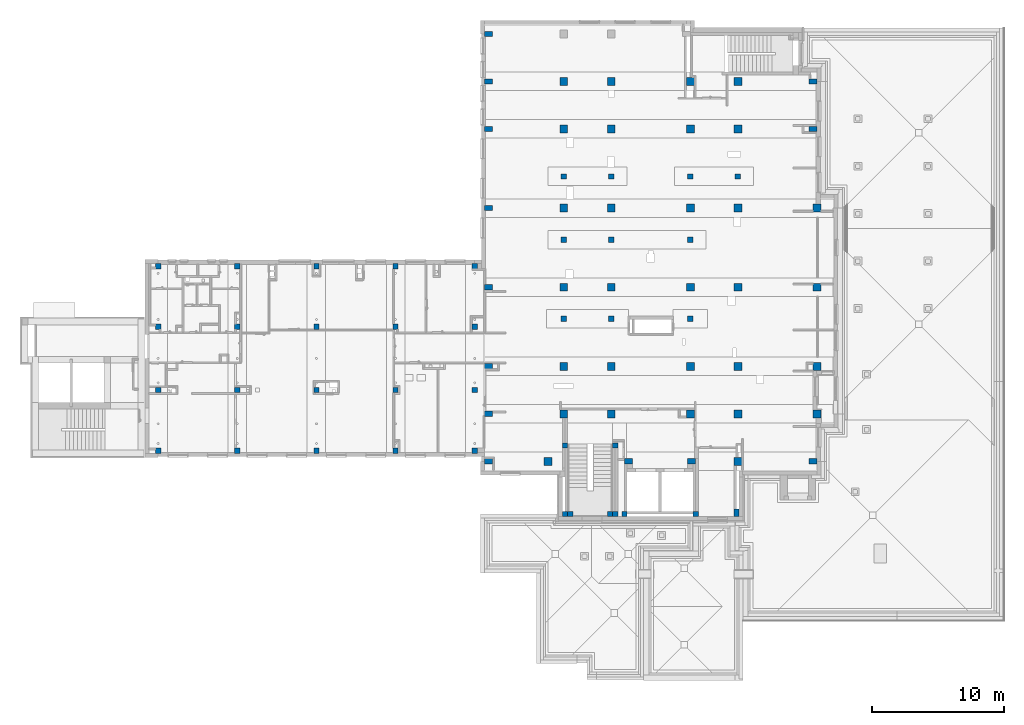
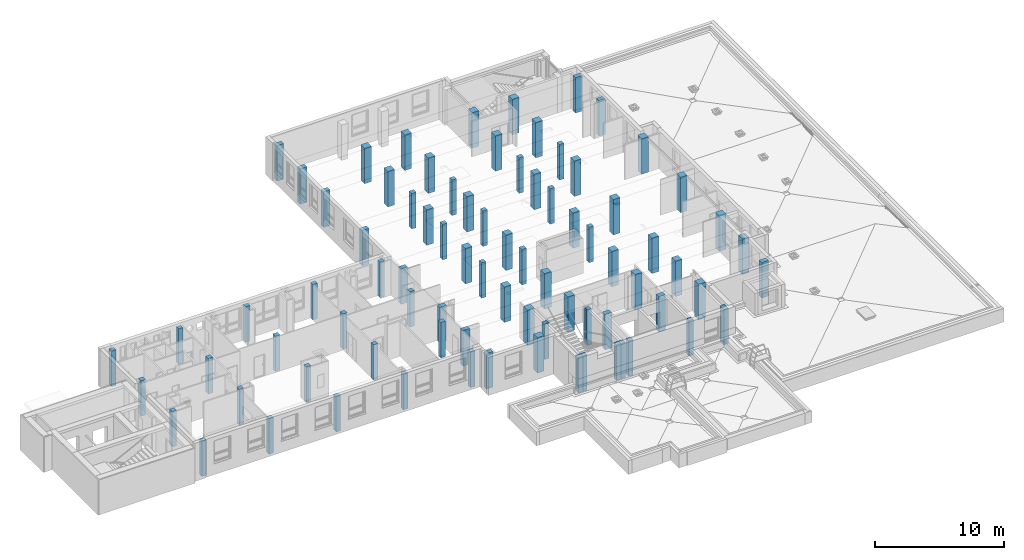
# One storey, part 1 of 50: 82 columns.
"""IFC4 building model written with IfcOpenShell, lengths in metres."""

from ifc_helpers import new_model, entity, si_unit, converted_unit, derived_unit, frame, frame_2d, origin, origin_with_axes, place, context, subcontext, project, spatial, rectangle, extrude, material, element, save


model = new_model("IFC4")

# Units and contexts
model_context = context("Model", 3, precision=1e-05, world=origin())
body_context = subcontext(model_context, "Body", "Model", "MODEL_VIEW")
ifc_project = project(units=[si_unit("LENGTHUNIT", "METRE"), si_unit("AREAUNIT", "SQUARE_METRE"), si_unit("VOLUMEUNIT", "CUBIC_METRE"), si_unit("MASSUNIT", "GRAM", prefix="KILO"), converted_unit("PLANEANGLEUNIT", "DEGREE", entity("IfcPlaneAngleMeasure", 0.0174532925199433), si_unit("PLANEANGLEUNIT", "RADIAN"), dimensions=[0, 0, 0, 0, 0, 0, 0]), derived_unit("THERMALTRANSMITTANCEUNIT", [(si_unit("POWERUNIT", "WATT"), 1), (si_unit("THERMODYNAMICTEMPERATUREUNIT", "KELVIN"), -1), (si_unit("LENGTHUNIT", "METRE"), -2)]), derived_unit("VOLUMETRICFLOWRATEUNIT", [(si_unit("LENGTHUNIT", "METRE"), 3), (converted_unit("TIMEUNIT", "hour", entity("IfcTimeMeasure", 3600.0), si_unit("TIMEUNIT", "SECOND"), dimensions=[0, 0, 1, 0, 0, 0, 0]), -1), (si_unit("LENGTHUNIT", "METRE"), -1)])], contexts=[model_context])

# Site, building, storey
site_placement = place(None, origin())
site = spatial("IfcSite", under=ifc_project, at=site_placement, Name="3. ASŘ", CompositionType="ELEMENT")
building_placement = place(site_placement, origin())
building = spatial("IfcBuilding", under=site, at=building_placement, Name="Pavilon C", CompositionType="ELEMENT")
storey_placement = place(building_placement, frame((0.0, 0.0, 3.6)))
storey = spatial("IfcBuildingStorey", under=building, at=storey_placement, Name="Půdorys 2.NP", CompositionType="ELEMENT", Elevation=3.6)

# Columns
ifc_material_1 = material(Name="ZELEZOBETONOVÁ KCE")
column_1_placement = place(storey_placement, frame((24.2, 5.6, -0.1)))
element("IfcColumn", 1, at=column_1_placement, inside=storey, material=ifc_material_1, PredefinedType="COLUMN", context=body_context, shape_type="SweptSolid", body=[
    extrude(rectangle(XDim=0.400000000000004, YDim=0.4, at=frame_2d((-0.200000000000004, -0.2), x_axis=(-1.0, 0.0))), origin_with_axes(), (0.0, 0.0, 1.0), 3.35),
])
ifc_material_2 = material(Name="ZELEZOBETONOVÁ KCE")
column_2_placement = place(storey_placement, frame((29.85, 0.299999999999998, -0.1)))
element("IfcColumn", 2, at=column_2_placement, inside=storey, material=ifc_material_2, PredefinedType="COLUMN", context=body_context, shape_type="SweptSolid", body=[
    extrude(rectangle(XDim=0.6, YDim=0.6, at=frame_2d((-0.3, -0.3), x_axis=(-1.0, 0.0))), origin_with_axes(), (0.0, 0.0, 1.0), 3.35),
])
ifc_material_3 = material(Name="ZELEZOBETONOVÁ KCE")
column_3_placement = place(storey_placement, frame((31.05, 29.1, -0.1)))
element("IfcColumn", 3, at=column_3_placement, inside=storey, material=ifc_material_3, PredefinedType="COLUMN", context=body_context, shape_type="SweptSolid", body=[
    extrude(rectangle(XDim=0.6, YDim=0.6, at=frame_2d((-0.3, -0.3), x_axis=(-1.0, 0.0))), origin_with_axes(), (0.0, 0.0, 1.0), 3.35),
])
ifc_material_4 = material(Name="ZELEZOBETONOVÁ KCE")
column_4_placement = place(storey_placement, frame((34.65, 29.1, -0.1)))
element("IfcColumn", 4, at=column_4_placement, inside=storey, material=ifc_material_4, PredefinedType="COLUMN", context=body_context, shape_type="SweptSolid", body=[
    extrude(rectangle(XDim=0.6, YDim=0.6, at=frame_2d((-0.3, -0.3), x_axis=(-1.0, 0.0))), origin_with_axes(), (0.0, 0.0, 1.0), 3.35),
])
ifc_material_5 = material(Name="ZELEZOBETONOVÁ KCE")
column_5_placement = place(storey_placement, frame((31.05, 25.5, -0.1)))
element("IfcColumn", 5, at=column_5_placement, inside=storey, material=ifc_material_5, PredefinedType="COLUMN", context=body_context, shape_type="SweptSolid", body=[
    extrude(rectangle(XDim=0.6, YDim=0.6, at=frame_2d((-0.3, -0.3), x_axis=(-1.0, 0.0))), origin_with_axes(), (0.0, 0.0, 1.0), 3.35),
])
ifc_material_6 = material(Name="ZELEZOBETONOVÁ KCE")
column_6_placement = place(storey_placement, frame((34.65, 25.5, -0.1)))
element("IfcColumn", 6, at=column_6_placement, inside=storey, material=ifc_material_6, PredefinedType="COLUMN", context=body_context, shape_type="SweptSolid", body=[
    extrude(rectangle(XDim=0.6, YDim=0.6, at=frame_2d((-0.3, -0.3), x_axis=(-1.0, 0.0))), origin_with_axes(), (0.0, 0.0, 1.0), 3.35),
])
ifc_material_7 = material(Name="ZELEZOBETONOVÁ KCE")
column_7_placement = place(storey_placement, frame((31.05, 19.5, -0.1)))
element("IfcColumn", 7, at=column_7_placement, inside=storey, material=ifc_material_7, PredefinedType="COLUMN", context=body_context, shape_type="SweptSolid", body=[
    extrude(rectangle(XDim=0.6, YDim=0.6, at=frame_2d((-0.3, -0.3), x_axis=(-1.0, 0.0))), origin_with_axes(), (0.0, 0.0, 1.0), 3.35),
])
ifc_material_8 = material(Name="ZELEZOBETONOVÁ KCE")
column_8_placement = place(storey_placement, frame((34.65, 19.5, -0.1)))
element("IfcColumn", 8, at=column_8_placement, inside=storey, material=ifc_material_8, PredefinedType="COLUMN", context=body_context, shape_type="SweptSolid", body=[
    extrude(rectangle(XDim=0.6, YDim=0.6, at=frame_2d((-0.3, -0.3), x_axis=(-1.0, 0.0))), origin_with_axes(), (0.0, 0.0, 1.0), 3.35),
])
ifc_material_9 = material(Name="ZELEZOBETONOVÁ KCE")
column_9_placement = place(storey_placement, frame((31.05, 13.5, -0.1)))
element("IfcColumn", 9, at=column_9_placement, inside=storey, material=ifc_material_9, PredefinedType="COLUMN", context=body_context, shape_type="SweptSolid", body=[
    extrude(rectangle(XDim=0.6, YDim=0.6, at=frame_2d((-0.3, -0.3), x_axis=(-1.0, 0.0))), origin_with_axes(), (0.0, 0.0, 1.0), 3.35),
])
ifc_material_10 = material(Name="ZELEZOBETONOVÁ KCE")
column_10_placement = place(storey_placement, frame((34.65, 13.5, -0.1)))
element("IfcColumn", 10, at=column_10_placement, inside=storey, material=ifc_material_10, PredefinedType="COLUMN", context=body_context, shape_type="SweptSolid", body=[
    extrude(rectangle(XDim=0.6, YDim=0.6, at=frame_2d((-0.3, -0.3), x_axis=(-1.0, 0.0))), origin_with_axes(), (0.0, 0.0, 1.0), 3.35),
])
ifc_material_11 = material(Name="ZELEZOBETONOVÁ KCE")
column_11_placement = place(storey_placement, frame((31.05, 7.5, -0.1)))
element("IfcColumn", 11, at=column_11_placement, inside=storey, material=ifc_material_11, PredefinedType="COLUMN", context=body_context, shape_type="SweptSolid", body=[
    extrude(rectangle(XDim=0.6, YDim=0.6, at=frame_2d((-0.3, -0.3), x_axis=(-1.0, 0.0))), origin_with_axes(), (0.0, 0.0, 1.0), 3.35),
])
ifc_material_12 = material(Name="ZELEZOBETONOVÁ KCE")
column_12_placement = place(storey_placement, frame((34.65, 7.5, -0.1)))
element("IfcColumn", 12, at=column_12_placement, inside=storey, material=ifc_material_12, PredefinedType="COLUMN", context=body_context, shape_type="SweptSolid", body=[
    extrude(rectangle(XDim=0.6, YDim=0.6, at=frame_2d((-0.3, -0.3), x_axis=(-1.0, 0.0))), origin_with_axes(), (0.0, 0.0, 1.0), 3.35),
])
ifc_material_13 = material(Name="ZELEZOBETONOVÁ KCE")
column_13_placement = place(storey_placement, frame((44.25, 3.89999999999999, -0.1)))
element("IfcColumn", 13, at=column_13_placement, inside=storey, material=ifc_material_13, PredefinedType="COLUMN", context=body_context, shape_type="SweptSolid", body=[
    extrude(rectangle(XDim=0.6, YDim=0.6, at=frame_2d((-0.3, -0.3), x_axis=(-1.0, 0.0))), origin_with_axes(), (0.0, 0.0, 1.0), 3.35),
])
ifc_material_14 = material(Name="ZELEZOBETONOVÁ KCE")
column_14_placement = place(storey_placement, frame((40.65, 7.49999999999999, -0.1)))
element("IfcColumn", 14, at=column_14_placement, inside=storey, material=ifc_material_14, PredefinedType="COLUMN", context=body_context, shape_type="SweptSolid", body=[
    extrude(rectangle(XDim=0.6, YDim=0.6, at=frame_2d((-0.3, -0.3), x_axis=(-1.0, 0.0))), origin_with_axes(), (0.0, 0.0, 1.0), 3.35),
])
ifc_material_15 = material(Name="ZELEZOBETONOVÁ KCE")
column_15_placement = place(storey_placement, frame((44.25, 7.49999999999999, -0.1)))
element("IfcColumn", 15, at=column_15_placement, inside=storey, material=ifc_material_15, PredefinedType="COLUMN", context=body_context, shape_type="SweptSolid", body=[
    extrude(rectangle(XDim=0.6, YDim=0.6, at=frame_2d((-0.3, -0.3), x_axis=(-1.0, 0.0))), origin_with_axes(), (0.0, 0.0, 1.0), 3.35),
])
ifc_material_16 = material(Name="ZELEZOBETONOVÁ KCE")
column_16_placement = place(storey_placement, frame((40.65, 13.5, -0.1)))
element("IfcColumn", 16, at=column_16_placement, inside=storey, material=ifc_material_16, PredefinedType="COLUMN", context=body_context, shape_type="SweptSolid", body=[
    extrude(rectangle(XDim=0.6, YDim=0.6, at=frame_2d((-0.3, -0.3), x_axis=(-1.0, 0.0))), origin_with_axes(), (0.0, 0.0, 1.0), 3.35),
])
ifc_material_17 = material(Name="ZELEZOBETONOVÁ KCE")
column_17_placement = place(storey_placement, frame((44.25, 13.5, -0.1)))
element("IfcColumn", 17, at=column_17_placement, inside=storey, material=ifc_material_17, PredefinedType="COLUMN", context=body_context, shape_type="SweptSolid", body=[
    extrude(rectangle(XDim=0.6, YDim=0.6, at=frame_2d((-0.3, -0.3), x_axis=(-1.0, 0.0))), origin_with_axes(), (0.0, 0.0, 1.0), 3.35),
])
ifc_material_18 = material(Name="ZELEZOBETONOVÁ KCE")
column_18_placement = place(storey_placement, frame((40.65, 19.5, -0.1)))
element("IfcColumn", 18, at=column_18_placement, inside=storey, material=ifc_material_18, PredefinedType="COLUMN", context=body_context, shape_type="SweptSolid", body=[
    extrude(rectangle(XDim=0.6, YDim=0.6, at=frame_2d((-0.3, -0.3), x_axis=(-1.0, 0.0))), origin_with_axes(), (0.0, 0.0, 1.0), 3.35),
])
ifc_material_19 = material(Name="ZELEZOBETONOVÁ KCE")
column_19_placement = place(storey_placement, frame((44.25, 19.5, -0.1)))
element("IfcColumn", 19, at=column_19_placement, inside=storey, material=ifc_material_19, PredefinedType="COLUMN", context=body_context, shape_type="SweptSolid", body=[
    extrude(rectangle(XDim=0.6, YDim=0.6, at=frame_2d((-0.3, -0.3), x_axis=(-1.0, 0.0))), origin_with_axes(), (0.0, 0.0, 1.0), 3.35),
])
ifc_material_20 = material(Name="ZELEZOBETONOVÁ KCE")
column_20_placement = place(storey_placement, frame((40.65, 25.5, -0.1)))
element("IfcColumn", 20, at=column_20_placement, inside=storey, material=ifc_material_20, PredefinedType="COLUMN", context=body_context, shape_type="SweptSolid", body=[
    extrude(rectangle(XDim=0.6, YDim=0.6, at=frame_2d((-0.3, -0.3), x_axis=(-1.0, 0.0))), origin_with_axes(), (0.0, 0.0, 1.0), 3.35),
])
ifc_material_21 = material(Name="ZELEZOBETONOVÁ KCE")
column_21_placement = place(storey_placement, frame((44.25, 25.5, -0.1)))
element("IfcColumn", 21, at=column_21_placement, inside=storey, material=ifc_material_21, PredefinedType="COLUMN", context=body_context, shape_type="SweptSolid", body=[
    extrude(rectangle(XDim=0.6, YDim=0.6, at=frame_2d((-0.3, -0.3), x_axis=(-1.0, 0.0))), origin_with_axes(), (0.0, 0.0, 1.0), 3.35),
])
ifc_material_22 = material(Name="ZELEZOBETONOVÁ KCE")
column_22_placement = place(storey_placement, frame((44.25, 29.1, -0.1)))
element("IfcColumn", 22, at=column_22_placement, inside=storey, material=ifc_material_22, PredefinedType="COLUMN", context=body_context, shape_type="SweptSolid", body=[
    extrude(rectangle(XDim=0.6, YDim=0.6, at=frame_2d((-0.3, -0.3), x_axis=(-1.0, 0.0))), origin_with_axes(), (0.0, 0.0, 1.0), 3.35),
])
ifc_material_23 = material(Name="ZELEZOBETONOVÁ KCE")
column_23_placement = place(storey_placement, frame((30.95, 17.0, -0.1)))
element("IfcColumn", 23, at=column_23_placement, inside=storey, material=ifc_material_23, PredefinedType="COLUMN", context=body_context, shape_type="SweptSolid", body=[
    extrude(rectangle(XDim=0.4, YDim=0.4, at=frame_2d((-0.2, -0.2), x_axis=(-1.0, 0.0))), origin_with_axes(), (0.0, 0.0, 1.0), 3.35),
])
ifc_material_24 = material(Name="ZELEZOBETONOVÁ KCE")
column_24_placement = place(storey_placement, frame((30.95, 21.8, -0.1)))
element("IfcColumn", 24, at=column_24_placement, inside=storey, material=ifc_material_24, PredefinedType="COLUMN", context=body_context, shape_type="SweptSolid", body=[
    extrude(rectangle(XDim=0.4, YDim=0.4, at=frame_2d((-0.2, -0.2), x_axis=(-1.0, 0.0))), origin_with_axes(), (0.0, 0.0, 1.0), 3.35),
])
ifc_material_25 = material(Name="ZELEZOBETONOVÁ KCE")
column_25_placement = place(storey_placement, frame((34.55, 11.0, -0.1)))
element("IfcColumn", 25, at=column_25_placement, inside=storey, material=ifc_material_25, PredefinedType="COLUMN", context=body_context, shape_type="SweptSolid", body=[
    extrude(rectangle(XDim=0.4, YDim=0.4, at=frame_2d((-0.2, -0.2), x_axis=(-1.0, 0.0))), origin_with_axes(), (0.0, 0.0, 1.0), 3.35),
])
ifc_material_26 = material(Name="ZELEZOBETONOVÁ KCE")
column_26_placement = place(storey_placement, frame((34.55, 17.0, -0.1)))
element("IfcColumn", 26, at=column_26_placement, inside=storey, material=ifc_material_26, PredefinedType="COLUMN", context=body_context, shape_type="SweptSolid", body=[
    extrude(rectangle(XDim=0.4, YDim=0.4, at=frame_2d((-0.2, -0.2), x_axis=(-1.0, 0.0))), origin_with_axes(), (0.0, 0.0, 1.0), 3.35),
])
ifc_material_27 = material(Name="ZELEZOBETONOVÁ KCE")
column_27_placement = place(storey_placement, frame((34.55, 21.8, -0.1)))
element("IfcColumn", 27, at=column_27_placement, inside=storey, material=ifc_material_27, PredefinedType="COLUMN", context=body_context, shape_type="SweptSolid", body=[
    extrude(rectangle(XDim=0.4, YDim=0.4, at=frame_2d((-0.2, -0.2), x_axis=(-1.0, 0.0))), origin_with_axes(), (0.0, 0.0, 1.0), 3.35),
])
ifc_material_28 = material(Name="ZELEZOBETONOVÁ KCE")
column_28_placement = place(storey_placement, frame((40.55, 17.0, -0.1)))
element("IfcColumn", 28, at=column_28_placement, inside=storey, material=ifc_material_28, PredefinedType="COLUMN", context=body_context, shape_type="SweptSolid", body=[
    extrude(rectangle(XDim=0.4, YDim=0.4, at=frame_2d((-0.2, -0.2), x_axis=(-1.0, 0.0))), origin_with_axes(), (0.0, 0.0, 1.0), 3.35),
])
ifc_material_29 = material(Name="ZELEZOBETONOVÁ KCE")
column_29_placement = place(storey_placement, frame((40.55, 21.8, -0.1)))
element("IfcColumn", 29, at=column_29_placement, inside=storey, material=ifc_material_29, PredefinedType="COLUMN", context=body_context, shape_type="SweptSolid", body=[
    extrude(rectangle(XDim=0.4, YDim=0.4, at=frame_2d((-0.2, -0.2), x_axis=(-1.0, 0.0))), origin_with_axes(), (0.0, 0.0, 1.0), 3.35),
])
ifc_material_30 = material(Name="ZELEZOBETONOVÁ KCE")
column_30_placement = place(storey_placement, frame((44.15, 21.8, -0.1)))
element("IfcColumn", 30, at=column_30_placement, inside=storey, material=ifc_material_30, PredefinedType="COLUMN", context=body_context, shape_type="SweptSolid", body=[
    extrude(rectangle(XDim=0.4, YDim=0.4, at=frame_2d((-0.2, -0.2), x_axis=(-1.0, 0.0))), origin_with_axes(), (0.0, 0.0, 1.0), 3.35),
])
ifc_material_31 = material(Name="ZELEZOBETONOVÁ KCE")
column_31_placement = place(storey_placement, frame((30.95, 11.0, -0.1)))
element("IfcColumn", 31, at=column_31_placement, inside=storey, material=ifc_material_31, PredefinedType="COLUMN", context=body_context, shape_type="SweptSolid", body=[
    extrude(rectangle(XDim=0.4, YDim=0.4, at=frame_2d((-0.2, -0.2), x_axis=(-1.0, 0.0))), origin_with_axes(), (0.0, 0.0, 1.0), 3.35),
])
ifc_material_32 = material(Name="ZELEZOBETONOVÁ KCE")
column_32_placement = place(storey_placement, frame((40.65, 29.1, -0.1)))
element("IfcColumn", 32, at=column_32_placement, inside=storey, material=ifc_material_32, PredefinedType="COLUMN", context=body_context, shape_type="SweptSolid", body=[
    extrude(rectangle(XDim=0.6, YDim=0.6, at=frame_2d((-0.3, -0.3), x_axis=(-1.0, 0.0))), origin_with_axes(), (0.0, 0.0, 1.0), 3.35),
])
ifc_material_33 = material(Name="ZELEZOBETONOVÁ KCE")
column_33_placement = place(storey_placement, frame((34.65, 3.9, -0.1)))
element("IfcColumn", 33, at=column_33_placement, inside=storey, material=ifc_material_33, PredefinedType="COLUMN", context=body_context, shape_type="SweptSolid", body=[
    extrude(rectangle(XDim=0.6, YDim=0.6, at=frame_2d((-0.3, -0.3), x_axis=(-1.0, 0.0))), origin_with_axes(), (0.0, 0.0, 1.0), 3.35),
])
ifc_material_34 = material(Name="ZELEZOBETONOVÁ KCE")
column_34_placement = place(storey_placement, frame((31.05, 3.9, -0.1)))
element("IfcColumn", 34, at=column_34_placement, inside=storey, material=ifc_material_34, PredefinedType="COLUMN", context=body_context, shape_type="SweptSolid", body=[
    extrude(rectangle(XDim=0.6, YDim=0.6, at=frame_2d((-0.3, -0.3), x_axis=(-1.0, 0.0))), origin_with_axes(), (0.0, 0.0, 1.0), 3.35),
])
ifc_material_35 = material(Name="ZELEZOBETONOVÁ KCE")
column_35_placement = place(storey_placement, frame((40.65, 3.89999999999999, -0.1)))
element("IfcColumn", 35, at=column_35_placement, inside=storey, material=ifc_material_35, PredefinedType="COLUMN", context=body_context, shape_type="SweptSolid", body=[
    extrude(rectangle(XDim=0.6, YDim=0.6, at=frame_2d((-0.3, -0.3), x_axis=(-1.0, 0.0))), origin_with_axes(), (0.0, 0.0, 1.0), 3.35),
])
ifc_material_36 = material(Name="ZELEZOBETONOVÁ KCE")
column_36_placement = place(storey_placement, frame((50.25, 3.89999999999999, -0.1)))
element("IfcColumn", 36, at=column_36_placement, inside=storey, material=ifc_material_36, PredefinedType="COLUMN", context=body_context, shape_type="SweptSolid", body=[
    extrude(rectangle(XDim=0.6, YDim=0.6, at=frame_2d((-0.3, -0.3), x_axis=(-1.0, 0.0))), origin_with_axes(), (0.0, 0.0, 1.0), 3.35),
])
ifc_material_37 = material(Name="ZELEZOBETONOVÁ KCE")
column_37_placement = place(storey_placement, frame((49.95, 0.19999999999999, -0.1)))
element("IfcColumn", 37, at=column_37_placement, inside=storey, material=ifc_material_37, PredefinedType="COLUMN", context=body_context, shape_type="SweptSolid", body=[
    extrude(rectangle(XDim=0.6, YDim=0.4, at=frame_2d((-0.3, -0.2), x_axis=(-1.0, 0.0))), origin_with_axes(), (0.0, 0.0, 1.0), 3.35),
])
ifc_material_38 = material(Name="ZELEZOBETONOVÁ KCE")
column_38_placement = place(storey_placement, frame((12.2, 5.6, -0.1)))
element("IfcColumn", 38, at=column_38_placement, inside=storey, material=ifc_material_38, PredefinedType="COLUMN", context=body_context, shape_type="SweptSolid", body=[
    extrude(rectangle(XDim=0.4, YDim=0.4, at=frame_2d((-0.2, -0.2), x_axis=(-1.0, 0.0))), origin_with_axes(), (0.0, 0.0, 1.0), 3.35),
])
ifc_material_39 = material(Name="ZELEZOBETONOVÁ KCE")
column_39_placement = place(storey_placement, frame((0.200000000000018, 5.6, -0.1)))
element("IfcColumn", 39, at=column_39_placement, inside=storey, material=ifc_material_39, PredefinedType="COLUMN", context=body_context, shape_type="SweptSolid", body=[
    extrude(rectangle(XDim=0.4, YDim=0.4, at=frame_2d((-0.2, -0.2), x_axis=(-1.0, 0.0))), origin_with_axes(), (0.0, 0.0, 1.0), 3.35),
])
ifc_material_40 = material(Name="ZELEZOBETONOVÁ KCE")
column_40_placement = place(storey_placement, frame((6.20000000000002, 5.6, -0.1)))
element("IfcColumn", 40, at=column_40_placement, inside=storey, material=ifc_material_40, PredefinedType="COLUMN", context=body_context, shape_type="SweptSolid", body=[
    extrude(rectangle(XDim=0.4, YDim=0.4, at=frame_2d((-0.2, -0.2), x_axis=(-1.0, 0.0))), origin_with_axes(), (0.0, 0.0, 1.0), 3.35),
])
ifc_material_41 = material(Name="ZELEZOBETONOVÁ KCE")
column_41_placement = place(storey_placement, frame((0.200000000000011, 10.4, -0.1)))
element("IfcColumn", 41, at=column_41_placement, inside=storey, material=ifc_material_41, PredefinedType="COLUMN", context=body_context, shape_type="SweptSolid", body=[
    extrude(rectangle(XDim=0.4, YDim=0.4, at=frame_2d((-0.2, -0.2), x_axis=(-1.0, 0.0))), origin_with_axes(), (0.0, 0.0, 1.0), 3.35),
])
ifc_material_42 = material(Name="ZELEZOBETONOVÁ KCE")
column_42_placement = place(storey_placement, frame((12.2, 15.0, -0.1)))
element("IfcColumn", 42, at=column_42_placement, inside=storey, material=ifc_material_42, PredefinedType="COLUMN", context=body_context, shape_type="SweptSolid", body=[
    extrude(rectangle(XDim=0.4, YDim=0.4, at=frame_2d((-0.2, -0.2), x_axis=(-1.0, 0.0))), origin_with_axes(), (0.0, 0.0, 1.0), 3.35),
])
ifc_material_43 = material(Name="ZELEZOBETONOVÁ KCE")
column_43_placement = place(storey_placement, frame((0.200000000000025, 15.0, -0.1)))
element("IfcColumn", 43, at=column_43_placement, inside=storey, material=ifc_material_43, PredefinedType="COLUMN", context=body_context, shape_type="SweptSolid", body=[
    extrude(rectangle(XDim=0.4, YDim=0.4, at=frame_2d((-0.2, -0.2), x_axis=(-1.0, 0.0))), origin_with_axes(), (0.0, 0.0, 1.0), 3.35),
])
ifc_material_44 = material(Name="ZELEZOBETONOVÁ KCE")
column_44_placement = place(storey_placement, frame((24.2, 15.0, -0.1)))
element("IfcColumn", 44, at=column_44_placement, inside=storey, material=ifc_material_44, PredefinedType="COLUMN", context=body_context, shape_type="SweptSolid", body=[
    extrude(rectangle(XDim=0.399999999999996, YDim=0.4, at=frame_2d((-0.199999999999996, -0.2), x_axis=(-1.0, 0.0))), origin_with_axes(), (0.0, 0.0, 1.0), 3.35),
])
ifc_material_45 = material(Name="ZELEZOBETONOVÁ KCE")
column_45_placement = place(storey_placement, frame((25.35, 19.4, -0.1)))
element("IfcColumn", 45, at=column_45_placement, inside=storey, material=ifc_material_45, PredefinedType="COLUMN", context=body_context, shape_type="SweptSolid", body=[
    extrude(rectangle(XDim=0.599999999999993, YDim=0.4, at=frame_2d((-0.299999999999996, -0.2), x_axis=(-1.0, 0.0))), origin_with_axes(), (0.0, 0.0, 1.0), 3.35),
])
ifc_material_46 = material(Name="ZELEZOBETONOVÁ KCE")
column_46_placement = place(storey_placement, frame((25.35, 25.4, -0.1)))
element("IfcColumn", 46, at=column_46_placement, inside=storey, material=ifc_material_46, PredefinedType="COLUMN", context=body_context, shape_type="SweptSolid", body=[
    extrude(rectangle(XDim=0.599999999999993, YDim=0.4, at=frame_2d((-0.299999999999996, -0.2), x_axis=(-1.0, 0.0))), origin_with_axes(), (0.0, 0.0, 1.0), 3.35),
])
ifc_material_47 = material(Name="ZELEZOBETONOVÁ KCE")
column_47_placement = place(storey_placement, frame((25.35, 29.0, -0.1)))
element("IfcColumn", 47, at=column_47_placement, inside=storey, material=ifc_material_47, PredefinedType="COLUMN", context=body_context, shape_type="SweptSolid", body=[
    extrude(rectangle(XDim=0.599999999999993, YDim=0.4, at=frame_2d((-0.299999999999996, -0.2), x_axis=(-1.0, 0.0))), origin_with_axes(), (0.0, 0.0, 1.0), 3.35),
])
ifc_material_48 = material(Name="ZELEZOBETONOVÁ KCE")
column_48_placement = place(storey_placement, frame((25.35, 32.6, -0.1)))
element("IfcColumn", 48, at=column_48_placement, inside=storey, material=ifc_material_48, PredefinedType="COLUMN", context=body_context, shape_type="SweptSolid", body=[
    extrude(rectangle(XDim=0.599999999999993, YDim=0.4, at=frame_2d((-0.299999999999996, -0.2), x_axis=(-1.0, 0.0))), origin_with_axes(), (0.0, 0.0, 1.0), 3.35),
])
ifc_material_49 = material(Name="ZELEZOBETONOVÁ KCE")
column_49_placement = place(storey_placement, frame((24.2, 10.4, -0.1)))
element("IfcColumn", 49, at=column_49_placement, inside=storey, material=ifc_material_49, PredefinedType="COLUMN", context=body_context, shape_type="SweptSolid", body=[
    extrude(rectangle(XDim=0.399999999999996, YDim=0.4, at=frame_2d((-0.199999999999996, -0.2), x_axis=(-1.0, 0.0))), origin_with_axes(), (0.0, 0.0, 1.0), 3.35),
])
ifc_material_50 = material(Name="ZELEZOBETONOVÁ KCE")
column_50_placement = place(storey_placement, frame((25.35, 13.4, -0.1)))
element("IfcColumn", 50, at=column_50_placement, inside=storey, material=ifc_material_50, PredefinedType="COLUMN", context=body_context, shape_type="SweptSolid", body=[
    extrude(rectangle(XDim=0.6, YDim=0.4, at=frame_2d((-0.3, -0.2), x_axis=(-1.0, 0.0))), origin_with_axes(), (0.0, 0.0, 1.0), 3.35),
])
ifc_material_51 = material(Name="ZELEZOBETONOVÁ KCE")
column_51_placement = place(storey_placement, frame((18.2, 1.0, -0.1)))
element("IfcColumn", 51, at=column_51_placement, inside=storey, material=ifc_material_51, PredefinedType="COLUMN", context=body_context, shape_type="SweptSolid", body=[
    extrude(rectangle(XDim=0.4, YDim=0.4, at=frame_2d((-0.2, -0.2), x_axis=(-1.0, 0.0))), origin_with_axes(), (0.0, 0.0, 1.0), 3.35),
])
ifc_material_52 = material(Name="ZELEZOBETONOVÁ KCE")
column_52_placement = place(storey_placement, frame((6.20000000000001, 1.0, -0.1)))
element("IfcColumn", 52, at=column_52_placement, inside=storey, material=ifc_material_52, PredefinedType="COLUMN", context=body_context, shape_type="SweptSolid", body=[
    extrude(rectangle(XDim=0.4, YDim=0.4, at=frame_2d((-0.2, -0.2), x_axis=(-1.0, 0.0))), origin_with_axes(), (0.0, 0.0, 1.0), 3.35),
])
ifc_material_53 = material(Name="ZELEZOBETONOVÁ KCE")
column_53_placement = place(storey_placement, frame((12.2, 1.0, -0.1)))
element("IfcColumn", 53, at=column_53_placement, inside=storey, material=ifc_material_53, PredefinedType="COLUMN", context=body_context, shape_type="SweptSolid", body=[
    extrude(rectangle(XDim=0.4, YDim=0.4, at=frame_2d((-0.2, -0.2), x_axis=(-1.0, 0.0))), origin_with_axes(), (0.0, 0.0, 1.0), 3.35),
])
ifc_material_54 = material(Name="ZELEZOBETONOVÁ KCE")
column_54_placement = place(storey_placement, frame((24.2, 1.0, -0.1)))
element("IfcColumn", 54, at=column_54_placement, inside=storey, material=ifc_material_54, PredefinedType="COLUMN", context=body_context, shape_type="SweptSolid", body=[
    extrude(rectangle(XDim=0.400000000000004, YDim=0.4, at=frame_2d((-0.200000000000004, -0.2), x_axis=(-1.0, 0.0))), origin_with_axes(), (0.0, 0.0, 1.0), 3.35),
])
ifc_material_55 = material(Name="ZELEZOBETONOVÁ KCE")
column_55_placement = place(storey_placement, frame((25.35, 0.199999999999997, -0.1)))
element("IfcColumn", 55, at=column_55_placement, inside=storey, material=ifc_material_55, PredefinedType="COLUMN", context=body_context, shape_type="SweptSolid", body=[
    extrude(rectangle(XDim=0.6, YDim=0.4, at=frame_2d((-0.3, -0.2), x_axis=(-1.0, 0.0))), origin_with_axes(), (0.0, 0.0, 1.0), 3.35),
])
ifc_material_56 = material(Name="ZELEZOBETONOVÁ KCE")
column_56_placement = place(storey_placement, frame((25.35, 3.8, -0.1)))
element("IfcColumn", 56, at=column_56_placement, inside=storey, material=ifc_material_56, PredefinedType="COLUMN", context=body_context, shape_type="SweptSolid", body=[
    extrude(rectangle(XDim=0.6, YDim=0.4, at=frame_2d((-0.3, -0.2), x_axis=(-1.0, 0.0))), origin_with_axes(), (0.0, 0.0, 1.0), 3.35),
])
ifc_material_57 = material(Name="ZELEZOBETONOVÁ KCE")
column_57_placement = place(storey_placement, frame((40.55, 11.0, -0.1)))
element("IfcColumn", 57, at=column_57_placement, inside=storey, material=ifc_material_57, PredefinedType="COLUMN", context=body_context, shape_type="SweptSolid", body=[
    extrude(rectangle(XDim=0.4, YDim=0.4, at=frame_2d((-0.2, -0.2), x_axis=(-1.0, 0.0))), origin_with_axes(), (0.0, 0.0, 1.0), 3.35),
])
ifc_material_58 = material(Name="ZELEZOBETONOVÁ KCE")
column_58_placement = place(storey_placement, frame((31.05, 1.4, -0.1)))
element("IfcColumn", 58, at=column_58_placement, inside=storey, material=ifc_material_58, PredefinedType="COLUMN", context=body_context, shape_type="SweptSolid", body=[
    extrude(rectangle(XDim=0.4, YDim=0.4, at=frame_2d((-0.2, -0.2), x_axis=(-1.0, 0.0))), origin_with_axes(), (0.0, 0.0, 1.0), 3.35),
])
ifc_material_59 = material(Name="ZELEZOBETONOVÁ KCE")
column_59_placement = place(storey_placement, frame((40.75, 0.199999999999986, -0.1)))
element("IfcColumn", 59, at=column_59_placement, inside=storey, material=ifc_material_59, PredefinedType="COLUMN", context=body_context, shape_type="SweptSolid", body=[
    extrude(rectangle(XDim=0.6, YDim=0.4, at=frame_2d((-0.3, -0.2), x_axis=(-1.0, 0.0))), origin_with_axes(), (0.0, 0.0, 1.0), 3.35),
])
ifc_material_60 = material(Name="ZELEZOBETONOVÁ KCE")
column_60_placement = place(storey_placement, frame((34.85, 1.4, -0.1)))
element("IfcColumn", 60, at=column_60_placement, inside=storey, material=ifc_material_60, PredefinedType="COLUMN", context=body_context, shape_type="SweptSolid", body=[
    extrude(rectangle(XDim=0.4, YDim=0.4, at=frame_2d((-0.2, -0.2), x_axis=(-1.0, 0.0))), origin_with_axes(), (0.0, 0.0, 1.0), 3.35),
])
ifc_material_61 = material(Name="ZELEZOBETONOVÁ KCE")
column_61_placement = place(storey_placement, frame((35.95, 0.199999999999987, -0.1)))
element("IfcColumn", 61, at=column_61_placement, inside=storey, material=ifc_material_61, PredefinedType="COLUMN", context=body_context, shape_type="SweptSolid", body=[
    extrude(rectangle(XDim=0.6, YDim=0.4, at=frame_2d((-0.3, -0.2), x_axis=(-1.0, 0.0))), origin_with_axes(), (0.0, 0.0, 1.0), 3.35),
])
ifc_material_62 = material(Name="ZELEZOBETONOVÁ KCE")
column_62_placement = place(storey_placement, frame((35.55, -3.8, -0.1)))
element("IfcColumn", 62, at=column_62_placement, inside=storey, material=ifc_material_62, PredefinedType="COLUMN", context=body_context, shape_type="SweptSolid", body=[
    extrude(rectangle(XDim=0.4, YDim=0.4, at=frame_2d((-0.2, -0.2), x_axis=(-1.0, 1.13686837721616e-15))), origin_with_axes(), (0.0, 0.0, 1.0), 3.35),
])
ifc_material_63 = material(Name="ZELEZOBETONOVÁ KCE")
column_63_placement = place(storey_placement, frame((34.85, -3.79999999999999, -0.1)))
element("IfcColumn", 63, at=column_63_placement, inside=storey, material=ifc_material_63, PredefinedType="COLUMN", context=body_context, shape_type="SweptSolid", body=[
    extrude(rectangle(XDim=0.4, YDim=0.4, at=frame_2d((-0.2, -0.2), x_axis=(-1.0, 1.13686837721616e-15))), origin_with_axes(), (0.0, 0.0, 1.0), 3.35),
])
ifc_material_64 = material(Name="ZELEZOBETONOVÁ KCE")
column_64_placement = place(storey_placement, frame((34.45, -3.79999999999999, -0.1)))
element("IfcColumn", 64, at=column_64_placement, inside=storey, material=ifc_material_64, PredefinedType="COLUMN", context=body_context, shape_type="SweptSolid", body=[
    extrude(rectangle(XDim=0.4, YDim=0.4, at=frame_2d((-0.2, -0.2), x_axis=(-1.0, 1.13686837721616e-15))), origin_with_axes(), (0.0, 0.0, 1.0), 3.35),
])
ifc_material_65 = material(Name="ZELEZOBETONOVÁ KCE")
column_65_placement = place(storey_placement, frame((40.95, -3.80000000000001, -0.1)))
element("IfcColumn", 65, at=column_65_placement, inside=storey, material=ifc_material_65, PredefinedType="COLUMN", context=body_context, shape_type="SweptSolid", body=[
    extrude(rectangle(XDim=0.4, YDim=0.399999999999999, at=frame_2d((-0.2, -0.2), x_axis=(-1.0, 0.0))), origin_with_axes(), (0.0, 0.0, 1.0), 3.35),
])
ifc_material_66 = material(Name="ZELEZOBETONOVÁ KCE")
column_66_placement = place(storey_placement, frame((43.65, -3.6, -0.1)))
element("IfcColumn", 66, at=column_66_placement, inside=storey, material=ifc_material_66, PredefinedType="COLUMN", context=body_context, shape_type="SweptSolid", body=[
    extrude(rectangle(XDim=0.6, YDim=0.4, at=frame_2d((0.2, -0.3), x_axis=(0.0, -1.0))), origin_with_axes(), (0.0, 0.0, 1.0), 3.35),
])
ifc_material_67 = material(Name="ZELEZOBETONOVÁ KCE")
column_67_placement = place(storey_placement, frame((44.25, 0.29999999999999, -0.1)))
element("IfcColumn", 67, at=column_67_placement, inside=storey, material=ifc_material_67, PredefinedType="COLUMN", context=body_context, shape_type="SweptSolid", body=[
    extrude(rectangle(XDim=0.6, YDim=0.6, at=frame_2d((-0.3, -0.3), x_axis=(-1.0, 0.0))), origin_with_axes(), (0.0, 0.0, 1.0), 3.35),
])
ifc_material_68 = material(Name="ZELEZOBETONOVÁ KCE")
column_68_placement = place(storey_placement, frame((31.45, -3.8, -0.1)))
element("IfcColumn", 68, at=column_68_placement, inside=storey, material=ifc_material_68, PredefinedType="COLUMN", context=body_context, shape_type="SweptSolid", body=[
    extrude(rectangle(XDim=0.4, YDim=0.4, at=frame_2d((-0.2, -0.2), x_axis=(-1.0, 1.13686837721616e-15))), origin_with_axes(), (0.0, 0.0, 1.0), 3.35),
])
ifc_material_69 = material(Name="ZELEZOBETONOVÁ KCE")
column_69_placement = place(storey_placement, frame((31.05, -3.79999999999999, -0.1)))
element("IfcColumn", 69, at=column_69_placement, inside=storey, material=ifc_material_69, PredefinedType="COLUMN", context=body_context, shape_type="SweptSolid", body=[
    extrude(rectangle(XDim=0.4, YDim=0.4, at=frame_2d((-0.2, -0.2), x_axis=(-1.0, 1.13686837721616e-15))), origin_with_axes(), (0.0, 0.0, 1.0), 3.35),
])
ifc_material_70 = material(Name="ZELEZOBETONOVÁ KCE")
column_70_placement = place(storey_placement, frame((6.20000000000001, 10.4, -0.1)))
element("IfcColumn", 70, at=column_70_placement, inside=storey, material=ifc_material_70, PredefinedType="COLUMN", context=body_context, shape_type="SweptSolid", body=[
    extrude(rectangle(XDim=0.4, YDim=0.4, at=frame_2d((-0.2, -0.2), x_axis=(-1.0, 0.0))), origin_with_axes(), (0.0, 0.0, 1.0), 3.35),
])
ifc_material_71 = material(Name="ZELEZOBETONOVÁ KCE")
column_71_placement = place(storey_placement, frame((6.20000000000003, 15.0, -0.1)))
element("IfcColumn", 71, at=column_71_placement, inside=storey, material=ifc_material_71, PredefinedType="COLUMN", context=body_context, shape_type="SweptSolid", body=[
    extrude(rectangle(XDim=0.4, YDim=0.4, at=frame_2d((-0.2, -0.2), x_axis=(-1.0, 0.0))), origin_with_axes(), (0.0, 0.0, 1.0), 3.35),
])
ifc_material_72 = material(Name="ZELEZOBETONOVÁ KCE")
column_72_placement = place(storey_placement, frame((18.2, 5.6, -0.1)))
element("IfcColumn", 72, at=column_72_placement, inside=storey, material=ifc_material_72, PredefinedType="COLUMN", context=body_context, shape_type="SweptSolid", body=[
    extrude(rectangle(XDim=0.4, YDim=0.4, at=frame_2d((-0.2, -0.2), x_axis=(-1.0, 0.0))), origin_with_axes(), (0.0, 0.0, 1.0), 3.35),
])
ifc_material_73 = material(Name="ZELEZOBETONOVÁ KCE")
column_73_placement = place(storey_placement, frame((25.35, 7.4, -0.1)))
element("IfcColumn", 73, at=column_73_placement, inside=storey, material=ifc_material_73, PredefinedType="COLUMN", context=body_context, shape_type="SweptSolid", body=[
    extrude(rectangle(XDim=0.6, YDim=0.4, at=frame_2d((-0.3, -0.2), x_axis=(-1.0, 0.0))), origin_with_axes(), (0.0, 0.0, 1.0), 3.35),
])
ifc_material_74 = material(Name="ZELEZOBETONOVÁ KCE")
column_74_placement = place(storey_placement, frame((18.2, 15.0, -0.1)))
element("IfcColumn", 74, at=column_74_placement, inside=storey, material=ifc_material_74, PredefinedType="COLUMN", context=body_context, shape_type="SweptSolid", body=[
    extrude(rectangle(XDim=0.4, YDim=0.4, at=frame_2d((-0.2, -0.2), x_axis=(-1.0, 0.0))), origin_with_axes(), (0.0, 0.0, 1.0), 3.35),
])
ifc_material_75 = material(Name="ZELEZOBETONOVÁ KCE")
column_75_placement = place(storey_placement, frame((18.2, 10.4, -0.1)))
element("IfcColumn", 75, at=column_75_placement, inside=storey, material=ifc_material_75, PredefinedType="COLUMN", context=body_context, shape_type="SweptSolid", body=[
    extrude(rectangle(XDim=0.4, YDim=0.4, at=frame_2d((-0.2, -0.2), x_axis=(-1.0, 0.0))), origin_with_axes(), (0.0, 0.0, 1.0), 3.35),
])
ifc_material_76 = material(Name="ZELEZOBETONOVÁ KCE")
column_76_placement = place(storey_placement, frame((12.2, 10.4, -0.1)))
element("IfcColumn", 76, at=column_76_placement, inside=storey, material=ifc_material_76, PredefinedType="COLUMN", context=body_context, shape_type="SweptSolid", body=[
    extrude(rectangle(XDim=0.4, YDim=0.4, at=frame_2d((-0.2, -0.2), x_axis=(-1.0, 0.0))), origin_with_axes(), (0.0, 0.0, 1.0), 3.35),
])
ifc_material_77 = material(Name="ZELEZOBETONOVÁ KCE")
column_77_placement = place(storey_placement, frame((0.200000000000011, 1.0, -0.1)))
element("IfcColumn", 77, at=column_77_placement, inside=storey, material=ifc_material_77, PredefinedType="COLUMN", context=body_context, shape_type="SweptSolid", body=[
    extrude(rectangle(XDim=0.4, YDim=0.4, at=frame_2d((-0.2, -0.2), x_axis=(-1.0, 0.0))), origin_with_axes(), (0.0, 0.0, 1.0), 3.35),
])
ifc_material_78 = material(Name="ZELEZOBETONOVÁ KCE")
column_78_placement = place(storey_placement, frame((50.25, 7.49999999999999, -0.1)))
element("IfcColumn", 78, at=column_78_placement, inside=storey, material=ifc_material_78, PredefinedType="COLUMN", context=body_context, shape_type="SweptSolid", body=[
    extrude(rectangle(XDim=0.6, YDim=0.6, at=frame_2d((-0.3, -0.3), x_axis=(-1.0, 0.0))), origin_with_axes(), (0.0, 0.0, 1.0), 3.35),
])
ifc_material_79 = material(Name="ZELEZOBETONOVÁ KCE")
column_79_placement = place(storey_placement, frame((50.25, 13.5, -0.1)))
element("IfcColumn", 79, at=column_79_placement, inside=storey, material=ifc_material_79, PredefinedType="COLUMN", context=body_context, shape_type="SweptSolid", body=[
    extrude(rectangle(XDim=0.6, YDim=0.6, at=frame_2d((-0.3, -0.3), x_axis=(-1.0, 0.0))), origin_with_axes(), (0.0, 0.0, 1.0), 3.35),
])
ifc_material_80 = material(Name="ZELEZOBETONOVÁ KCE")
column_80_placement = place(storey_placement, frame((50.25, 19.5, -0.1)))
element("IfcColumn", 80, at=column_80_placement, inside=storey, material=ifc_material_80, PredefinedType="COLUMN", context=body_context, shape_type="SweptSolid", body=[
    extrude(rectangle(XDim=0.6, YDim=0.6, at=frame_2d((-0.3, -0.3), x_axis=(-1.0, 0.0))), origin_with_axes(), (0.0, 0.0, 1.0), 3.35),
])
ifc_material_81 = material(Name="ZELEZOBETONOVÁ KCE")
column_81_placement = place(storey_placement, frame((49.95, 25.4, -0.1)))
element("IfcColumn", 81, at=column_81_placement, inside=storey, material=ifc_material_81, PredefinedType="COLUMN", context=body_context, shape_type="SweptSolid", body=[
    extrude(rectangle(XDim=0.6, YDim=0.4, at=frame_2d((-0.3, -0.2), x_axis=(-1.0, 0.0))), origin_with_axes(), (0.0, 0.0, 1.0), 3.35),
])
ifc_material_82 = material(Name="ZELEZOBETONOVÁ KCE")
column_82_placement = place(storey_placement, frame((49.95, 29.0, -0.1)))
element("IfcColumn", 82, at=column_82_placement, inside=storey, material=ifc_material_82, PredefinedType="COLUMN", context=body_context, shape_type="SweptSolid", body=[
    extrude(rectangle(XDim=0.6, YDim=0.4, at=frame_2d((-0.3, -0.2), x_axis=(-1.0, 0.0))), origin_with_axes(), (0.0, 0.0, 1.0), 3.35),
])

save(model, "model.ifc")
